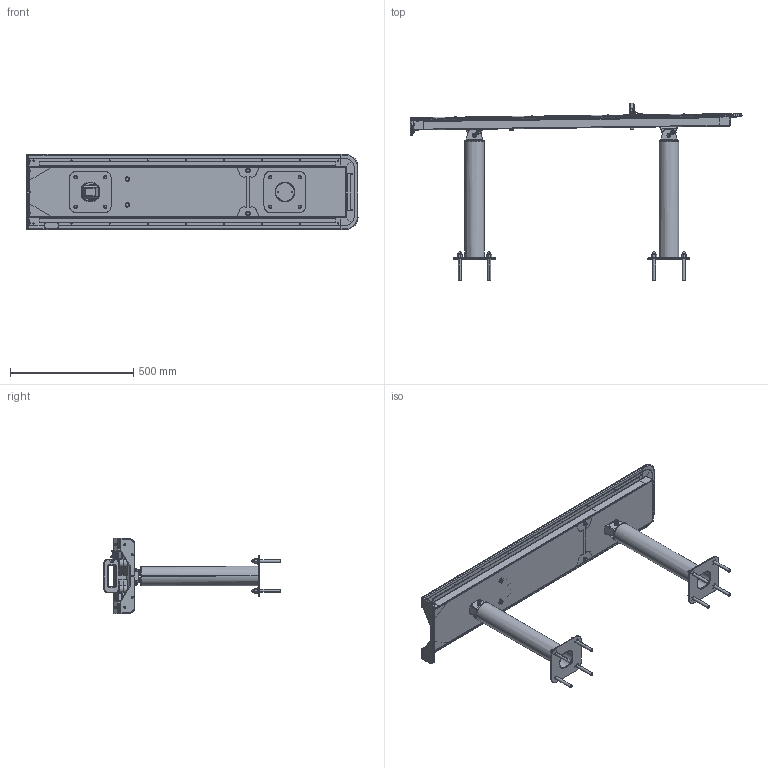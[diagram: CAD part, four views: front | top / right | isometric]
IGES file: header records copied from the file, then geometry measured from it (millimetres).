
Start section: SolidWorks IGES file using analytic representation for surfaces
Global section: file name: C:\Users\user25\Desktop\klient modele\570.203.010.011 - Channel FA.IGS; native system: SolidWorks 2018; preprocessor: SolidWorks 2018; author: user25; date: 210325.121314; units: millimetre
Bounding box: 1348.24 x 719.89 x 305 mm (x, y, z)
Surface area: 2094849.9 mm2 (no closed solid volume)
Topology: 0 solids, 0 shells, 1212 faces, 14927 edges, 14875 vertices
Faces by surface type: bspline 631, revolution 581
